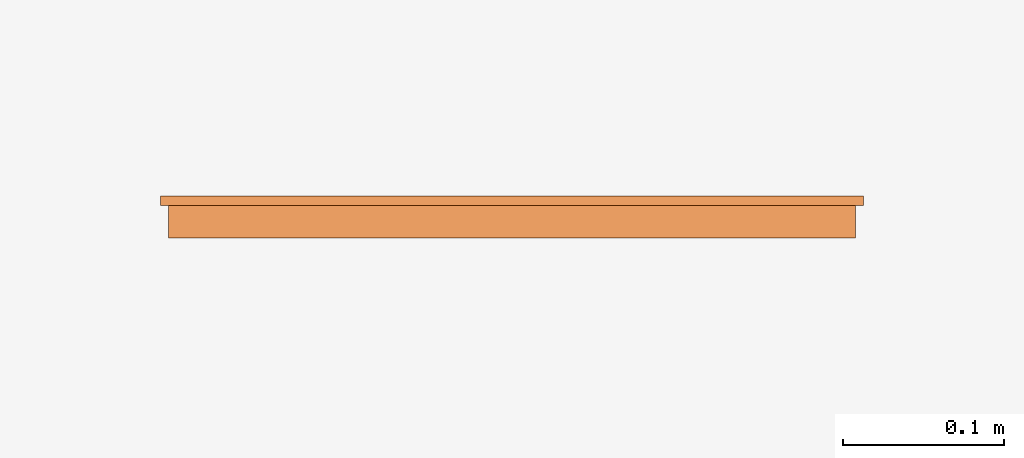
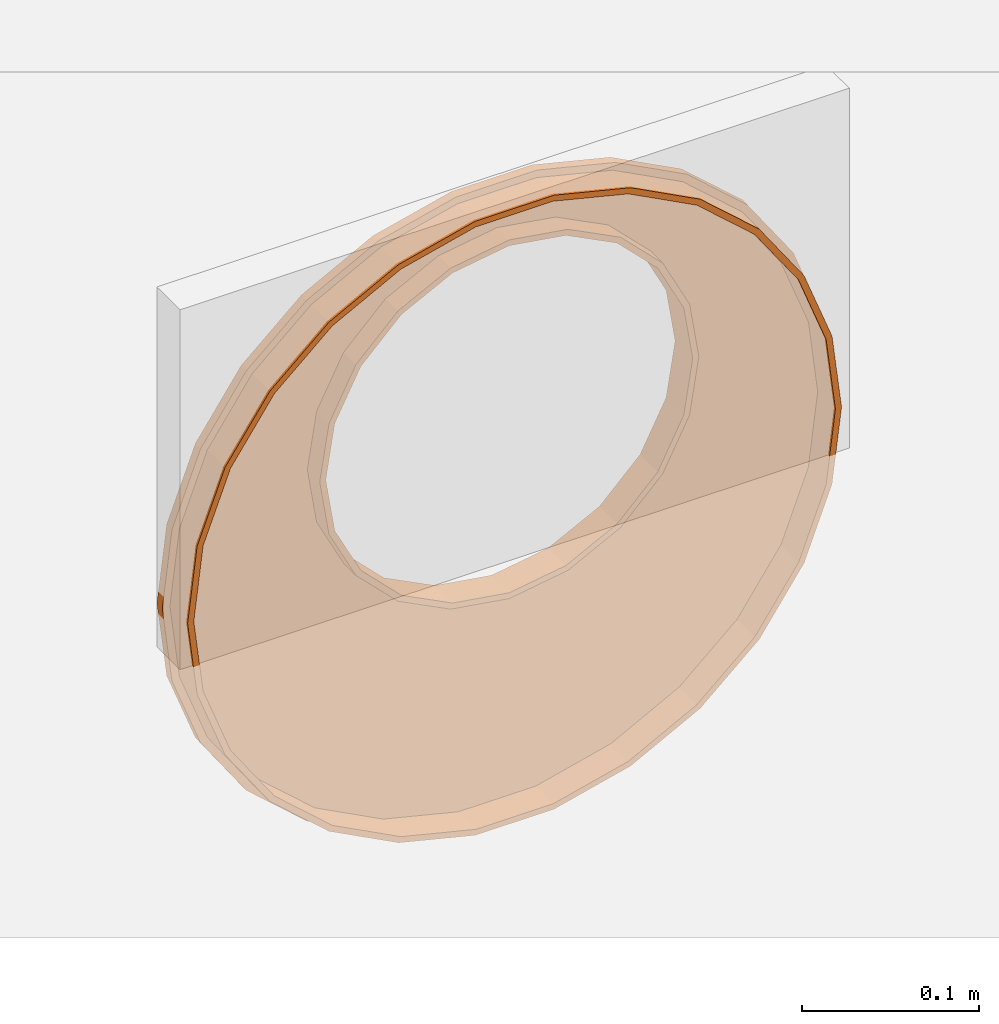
# One storey, part 2 of 2: 1 proxy.
"""IFC2X3 building model written with IfcOpenShell, lengths in millimetres."""

from ifc_helpers import new_model, entity, si_unit, converted_unit, direction, frame, origin, place, context, subcontext, project, spatial, faceted_brep, source, transform, mapped, element, save


model = new_model("IFC2X3")

# Units and contexts
model_context = context("Model", 3, precision=1e-06, world=origin(), true_north=direction((2.0, 6.12303176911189e-17, 1.0)))
context_of_model = context(None, 3, precision=1e-06, world=origin(), true_north=direction((2.0, 6.12303176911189e-17, 1.0)))
body_context = subcontext(model_context, "Body", "Model", "MODEL_VIEW")
ifc_project = project(units=[si_unit("LENGTHUNIT", "METRE", prefix="MILLI"), si_unit("AREAUNIT", "SQUARE_METRE", prefix="MILLI"), si_unit("VOLUMEUNIT", "CUBIC_METRE", prefix="MILLI"), converted_unit("PLANEANGLEUNIT", "DEGREE", entity("IfcRatioMeasure", 0.0174532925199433), si_unit("PLANEANGLEUNIT", "RADIAN"), dimensions=[0, 0, 0, 0, 0, 0, 0]), si_unit("TIMEUNIT", "SECOND")], contexts=[model_context, context_of_model])

# Site, building, storey
site_placement = place(None, origin())
site = spatial("IfcSite", under=ifc_project, at=site_placement, Name="Default", CompositionType="ELEMENT")
building_placement = place(site_placement, origin())
building = spatial("IfcBuilding", under=site, at=building_placement, CompositionType="ELEMENT")
storey_placement = place(building_placement, origin())
storey = spatial("IfcBuildingStorey", under=building, at=storey_placement, Name="Level 1", CompositionType="ELEMENT", Elevation=0.0)

# Proxy
shared_shape = source(origin(), body_context, "Body", "Brep", [
    faceted_brep([(431.260588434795, 21.5952722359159, 165.834991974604), (431.260588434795, 27.5952722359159, 165.834991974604), (433.720843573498, 27.595272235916, 186.097015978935), (433.720843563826, 21.5952722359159, 186.097015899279), (167.80484140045, 21.5952722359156, 7.88376905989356), (142.291406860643, 21.5952722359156, 14.1722658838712), (142.291406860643, 27.5952722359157, 14.1722658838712), (167.80484140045, 27.5952722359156, 7.88376905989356), (320.166262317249, 27.5952722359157, 26.3837949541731), (343.433387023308, 27.5952722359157, 38.5953240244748), (320.166262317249, 21.5952722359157, 26.3837949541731), (296.899137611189, 21.5952722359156, 14.1722658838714), (412.624685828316, 21.5952722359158, 116.69615528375), (412.624685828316, 27.5952722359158, 116.69615528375), (421.942637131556, 27.5952722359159, 141.265573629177), (421.942637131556, 21.5952722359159, 141.265573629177), (363.102001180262, 27.5952722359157, 56.0201956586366), (363.102001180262, 21.5952722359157, 56.0201956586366), (343.433387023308, 21.5952722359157, 38.5953240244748), (7.9299560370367, 21.5952722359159, 165.834991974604), (5.46970090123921, 21.5952722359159, 186.097015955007), (5.46970089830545, 27.595272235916, 186.097015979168), (7.9299560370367, 27.5952722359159, 165.834991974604), (271.385703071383, 21.5952722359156, 7.8837690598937), (245.872268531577, 21.5952722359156, 1.59527223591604), (245.872268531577, 27.5952722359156, 1.59527223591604), (271.385703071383, 27.5952722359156, 7.8837690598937), (437.595272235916, 24.595272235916, 218.005806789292), (437.595272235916, 21.595272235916, 218.005806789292), (397.697650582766, 27.5952722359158, 95.0706112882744), (397.697650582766, 21.5952722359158, 95.0706112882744), (382.770615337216, 21.5952722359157, 73.4450672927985), (382.770615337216, 27.5952722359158, 73.4450672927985), (296.899137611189, 27.5952722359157, 14.1722658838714), (1.595272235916, 24.595272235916, 218.005806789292), (1.595272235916, 27.595272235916, 218.005806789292), (193.318275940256, 21.5952722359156, 1.59527223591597), (193.318275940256, 27.5952722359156, 1.59527223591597), (56.4199291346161, 21.5952722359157, 73.4450672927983), (41.4928938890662, 21.5952722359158, 95.0706112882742), (41.4928938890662, 27.5952722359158, 95.0706112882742), (56.4199291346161, 27.5952722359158, 73.4450672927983), (437.595272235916, 27.595272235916, 218.005806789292), (1.595272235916, 21.595272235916, 218.005806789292), (219.595272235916, 21.5952722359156, 1.59527223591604), (219.595272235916, 27.5952722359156, 1.59527223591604), (119.024282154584, 27.5952722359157, 26.3837949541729), (119.024282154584, 21.5952722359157, 26.3837949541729), (17.2479073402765, 27.5952722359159, 141.265573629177), (26.5658586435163, 27.5952722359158, 116.69615528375), (26.5658586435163, 21.5952722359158, 116.69615528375), (17.2479073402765, 21.5952722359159, 141.265573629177), (76.0885432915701, 21.5952722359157, 56.0201956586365), (76.0885432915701, 27.5952722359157, 56.0201956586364), (95.7571574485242, 21.5952722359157, 38.5953240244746), (95.7571574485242, 27.5952722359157, 38.5953240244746), (432.595272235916, 6.595272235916, 218.005806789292), (432.595272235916, 1.595272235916, 218.005806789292), (426.405879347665, 1.5952722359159, 167.031570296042), (432.595272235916, 11.595272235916, 218.005806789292), (426.405879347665, 21.5952722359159, 167.031570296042), (408.19740570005, 1.59527223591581, 119.019771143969), (408.19740570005, 21.5952722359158, 119.019771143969), (379.028061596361, 1.59527223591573, 76.7606805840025), (379.028061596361, 21.5952722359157, 76.7606805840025), (340.593063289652, 21.5952722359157, 42.7102433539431), (340.593063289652, 1.59527223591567, 42.7102433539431), (295.126113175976, 1.59527223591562, 18.8473470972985), (295.126113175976, 21.5952722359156, 18.8473470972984), (245.2695851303, 1.5952722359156, 6.55881660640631), (245.2695851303, 21.5952722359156, 6.55881660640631), (432.595272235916, 16.595272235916, 218.005806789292), (432.595272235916, 21.595272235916, 218.005806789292), (193.920959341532, 21.5952722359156, 6.55881660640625), (193.920959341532, 1.5952722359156, 6.55881660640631), (144.064431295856, 1.59527223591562, 18.8473470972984), (98.5974811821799, 1.59527223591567, 42.7102433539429), (98.5974811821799, 21.5952722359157, 42.7102433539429), (144.064431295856, 21.5952722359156, 18.8473470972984), (60.1624828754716, 1.59527223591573, 76.7606805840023), (60.1624828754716, 21.5952722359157, 76.7606805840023), (12.784665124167, 1.5952722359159, 167.031570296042), (6.59527223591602, 1.595272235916, 218.005806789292), (6.59527223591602, 6.595272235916, 218.005806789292), (6.59527223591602, 11.595272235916, 218.005806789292), (30.9931387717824, 1.59527223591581, 119.019771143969), (30.9931387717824, 21.5952722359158, 119.019771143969), (12.784665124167, 21.5952722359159, 167.031570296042), (6.59527223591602, 16.595272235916, 218.005806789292), (6.59527223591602, 21.595272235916, 218.005806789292), (422.522112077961, 1.59527223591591, 167.988832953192), (428.595272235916, 1.595272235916, 218.005806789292), (428.595272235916, 6.595272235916, 218.005806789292), (428.595272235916, 11.595272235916, 218.005806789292), (404.655581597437, 1.59527223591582, 120.878663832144), (422.522112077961, 21.5952722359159, 167.988832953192), (404.655581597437, 21.5952722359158, 120.878663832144), (376.034018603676, 1.59527223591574, 79.4131712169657), (376.034018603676, 21.5952722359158, 79.4131712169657), (293.707693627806, 1.59527223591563, 22.5874120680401), (338.320804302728, 1.59527223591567, 46.0021788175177), (338.320804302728, 21.5952722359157, 46.0021788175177), (293.707693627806, 21.5952722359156, 22.5874120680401), (244.787438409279, 21.5952722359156, 10.5296521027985), (244.787438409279, 1.59527223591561, 10.5296521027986), (428.595272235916, 16.595272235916, 218.005806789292), (428.595272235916, 21.595272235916, 218.005806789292), (194.403106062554, 21.5952722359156, 10.5296521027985), (194.403106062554, 1.59527223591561, 10.5296521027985), (100.869740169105, 21.5952722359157, 46.0021788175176), (100.869740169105, 1.59527223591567, 46.0021788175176), (145.482850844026, 1.59527223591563, 22.5874120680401), (145.482850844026, 21.5952722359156, 22.5874120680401), (63.156525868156, 21.5952722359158, 79.4131712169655), (63.156525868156, 1.59527223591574, 79.4131712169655), (10.595272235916, 6.595272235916, 218.005806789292), (10.595272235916, 1.595272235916, 218.005806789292), (16.6684323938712, 1.59527223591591, 167.988832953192), (10.595272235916, 11.595272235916, 218.005806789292), (34.5349628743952, 21.5952722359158, 120.878663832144), (34.5349628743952, 1.59527223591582, 120.878663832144), (16.6684323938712, 21.5952722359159, 167.988832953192), (10.595272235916, 16.595272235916, 218.005806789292), (10.595272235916, 21.595272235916, 218.005806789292), (343.095272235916, 11.0952722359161, 280.505806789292), (343.095272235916, 7.59527223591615, 280.505806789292), (337.050751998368, 7.59527223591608, 242.342207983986), (343.095272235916, 14.5952722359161, 280.505806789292), (292.186750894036, 21.5952722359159, 180.592207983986), (292.186750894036, 7.59527223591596, 180.592207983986), (257.758871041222, 7.59527223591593, 163.05032702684), (257.758871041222, 21.5952722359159, 163.05032702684), (319.508871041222, 7.59527223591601, 207.914328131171), (319.508871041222, 21.595272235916, 207.914328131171), (337.050751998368, 21.5952722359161, 242.342207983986), (219.595272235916, 7.59527223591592, 157.005806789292), (219.595272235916, 21.5952722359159, 157.005806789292), (343.095272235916, 18.0952722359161, 280.505806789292), (343.095272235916, 21.5952722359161, 280.505806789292), (181.43167343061, 21.5952722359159, 163.05032702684), (181.43167343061, 7.59527223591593, 163.05032702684), (147.003793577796, 7.59527223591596, 180.592207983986), (147.003793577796, 21.5952722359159, 180.592207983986), (119.68167343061, 7.59527223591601, 207.914328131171), (119.68167343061, 21.595272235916, 207.914328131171), (102.139792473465, 7.59527223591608, 242.342207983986), (96.095272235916, 7.59527223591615, 280.505806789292), (96.095272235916, 11.0952722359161, 280.505806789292), (96.095272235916, 14.5952722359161, 280.505806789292), (102.139792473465, 21.5952722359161, 242.342207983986), (96.095272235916, 18.0952722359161, 280.505806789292), (96.095272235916, 21.5952722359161, 280.505806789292), (333.246525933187, 7.59527223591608, 243.578275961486), (339.095272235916, 7.59527223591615, 280.505806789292), (339.095272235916, 12.5952722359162, 280.505806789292), (339.095272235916, 17.5952722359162, 280.505806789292), (256.522803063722, 7.59527223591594, 166.854553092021), (289.835609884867, 7.59527223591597, 183.828275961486), (289.835609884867, 27.595272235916, 183.828275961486), (256.522803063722, 27.5952722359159, 166.854553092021), (316.272803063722, 7.59527223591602, 210.265469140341), (316.272803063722, 27.595272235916, 210.265469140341), (333.246525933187, 27.5952722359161, 243.578275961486), (219.595272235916, 7.59527223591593, 161.005806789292), (219.595272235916, 27.5952722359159, 161.005806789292), (339.095272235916, 22.5952722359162, 280.505806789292), (339.095272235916, 27.5952722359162, 280.505806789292), (149.354934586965, 7.59527223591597, 183.828275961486), (182.66774140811, 7.59527223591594, 166.854553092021), (182.66774140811, 27.5952722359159, 166.854553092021), (149.354934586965, 27.595272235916, 183.828275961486), (122.91774140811, 7.59527223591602, 210.265469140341), (122.91774140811, 27.595272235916, 210.265469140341), (100.095272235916, 12.5952722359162, 280.505806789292), (100.095272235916, 7.59527223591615, 280.505806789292), (105.944018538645, 7.59527223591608, 243.578275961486), (100.095272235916, 17.5952722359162, 280.505806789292), (105.944018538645, 27.5952722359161, 243.578275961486), (100.095272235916, 27.5952722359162, 280.505806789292), (100.095272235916, 22.5952722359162, 280.505806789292), (105.944018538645, 7.59527223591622, 317.433337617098), (122.91774140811, 27.5952722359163, 350.746144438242), (122.91774140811, 7.59527223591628, 350.746144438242), (105.944018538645, 27.5952722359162, 317.433337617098), (149.354934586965, 27.5952722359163, 377.183337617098), (149.354934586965, 7.59527223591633, 377.183337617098), (182.66774140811, 27.5952722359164, 394.157060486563), (182.66774140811, 7.59527223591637, 394.157060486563), (219.595272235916, 27.5952722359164, 400.005806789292), (219.595272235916, 7.59527223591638, 400.005806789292), (256.522803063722, 27.5952722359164, 394.157060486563), (256.522803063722, 7.59527223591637, 394.157060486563), (289.835609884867, 27.5952722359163, 377.183337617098), (289.835609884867, 7.59527223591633, 377.183337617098), (333.246525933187, 7.59527223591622, 317.433337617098), (316.272803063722, 7.59527223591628, 350.746144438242), (316.272803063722, 27.5952722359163, 350.746144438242), (333.246525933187, 27.5952722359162, 317.433337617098), (102.139792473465, 7.59527223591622, 318.669405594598), (119.68167343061, 7.59527223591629, 353.097285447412), (119.68167343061, 21.5952722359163, 353.097285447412), (102.139792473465, 21.5952722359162, 318.669405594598), (147.003793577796, 7.59527223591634, 380.419405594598), (147.003793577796, 21.5952722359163, 380.419405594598), (181.43167343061, 7.59527223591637, 397.961286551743), (181.43167343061, 21.5952722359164, 397.961286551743), (219.595272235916, 21.5952722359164, 404.005806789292), (219.595272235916, 7.59527223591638, 404.005806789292), (257.758871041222, 7.59527223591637, 397.961286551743), (257.758871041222, 21.5952722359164, 397.961286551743), (292.186750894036, 7.59527223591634, 380.419405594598), (292.186750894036, 21.5952722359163, 380.419405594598), (337.050751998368, 7.59527223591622, 318.669405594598), (319.508871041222, 7.59527223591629, 353.097285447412), (319.508871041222, 21.5952722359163, 353.097285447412), (337.050751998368, 21.5952722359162, 318.669405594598), (16.6684323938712, 1.59527223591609, 268.022780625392), (34.5349628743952, 1.59527223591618, 315.13294974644), (16.6684323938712, 21.5952722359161, 268.022780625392), (34.5349628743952, 21.5952722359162, 315.13294974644), (100.869740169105, 1.59527223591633, 390.009434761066), (63.156525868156, 1.59527223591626, 356.598442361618), (63.156525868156, 21.5952722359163, 356.598442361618), (100.869740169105, 21.5952722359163, 390.009434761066), (145.482850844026, 1.59527223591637, 413.424201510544), (145.482850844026, 21.5952722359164, 413.424201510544), (194.403106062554, 1.59527223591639, 425.481961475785), (194.403106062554, 21.5952722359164, 425.481961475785), (244.787438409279, 1.59527223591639, 425.481961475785), (244.787438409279, 21.5952722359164, 425.481961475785), (376.034018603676, 21.5952722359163, 356.598442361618), (376.034018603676, 1.59527223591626, 356.598442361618), (338.320804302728, 1.59527223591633, 390.009434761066), (338.320804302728, 21.5952722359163, 390.009434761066), (293.707693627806, 1.59527223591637, 413.424201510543), (293.707693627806, 21.5952722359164, 413.424201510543), (422.522112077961, 1.59527223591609, 268.022780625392), (404.655581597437, 21.5952722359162, 315.132949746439), (404.655581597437, 1.59527223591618, 315.13294974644), (422.522112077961, 21.5952722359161, 268.022780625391), (12.7846651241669, 1.5952722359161, 268.980043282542), (12.7846651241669, 21.5952722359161, 268.980043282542), (30.9931387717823, 1.59527223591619, 316.991842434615), (30.9931387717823, 21.5952722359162, 316.991842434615), (60.1624828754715, 21.5952722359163, 359.250932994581), (60.1624828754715, 1.59527223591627, 359.250932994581), (98.5974811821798, 1.59527223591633, 393.301370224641), (98.5974811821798, 21.5952722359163, 393.301370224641), (144.064431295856, 1.59527223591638, 417.164266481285), (144.064431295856, 21.5952722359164, 417.164266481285), (193.920959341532, 1.5952722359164, 429.452796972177), (193.920959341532, 21.5952722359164, 429.452796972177), (245.2695851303, 1.5952722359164, 429.452796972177), (245.2695851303, 21.5952722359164, 429.452796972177), (340.593063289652, 1.59527223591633, 393.301370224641), (379.02806159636, 1.59527223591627, 359.250932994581), (379.02806159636, 21.5952722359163, 359.250932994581), (340.593063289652, 21.5952722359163, 393.301370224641), (295.126113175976, 1.59527223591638, 417.164266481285), (295.126113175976, 21.5952722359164, 417.164266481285), (426.405879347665, 1.5952722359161, 268.980043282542), (408.19740570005, 1.59527223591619, 316.991842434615), (408.19740570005, 21.5952722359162, 316.991842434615), (426.405879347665, 21.5952722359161, 268.980043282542), (7.92995603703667, 21.5952722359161, 270.176621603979), (7.92995603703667, 27.5952722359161, 270.176621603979), (5.46970089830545, 27.5952722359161, 249.914597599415), (5.46970090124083, 21.5952722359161, 249.91459762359), (363.102001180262, 21.5952722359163, 379.991417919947), (382.770615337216, 21.5952722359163, 362.566546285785), (382.770615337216, 27.5952722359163, 362.566546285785), (363.102001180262, 27.5952722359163, 379.991417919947), (421.942637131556, 21.5952722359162, 294.746039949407), (431.260588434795, 21.5952722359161, 270.17662160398), (431.260588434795, 27.5952722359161, 270.17662160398), (421.942637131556, 27.5952722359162, 294.746039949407), (26.5658586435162, 21.5952722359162, 319.315458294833), (26.5658586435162, 27.5952722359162, 319.315458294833), (17.2479073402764, 27.5952722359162, 294.746039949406), (17.2479073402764, 21.5952722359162, 294.746039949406), (76.08854329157, 21.5952722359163, 379.991417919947), (95.757157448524, 21.5952722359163, 397.416289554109), (76.08854329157, 27.5952722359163, 379.991417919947), (56.4199291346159, 27.5952722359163, 362.566546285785), (219.595272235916, 27.5952722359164, 434.416341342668), (193.318275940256, 27.5952722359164, 434.416341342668), (219.595272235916, 21.5952722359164, 434.416341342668), (245.872268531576, 21.5952722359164, 434.416341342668), (119.024282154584, 27.5952722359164, 409.627818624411), (119.024282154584, 21.5952722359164, 409.627818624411), (142.291406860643, 21.5952722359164, 421.839347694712), (142.291406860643, 27.5952722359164, 421.839347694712), (41.4928938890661, 27.5952722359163, 340.941002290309), (41.4928938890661, 21.5952722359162, 340.941002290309), (56.4199291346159, 21.5952722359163, 362.566546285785), (271.385703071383, 21.5952722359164, 428.12784451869), (296.899137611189, 21.5952722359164, 421.839347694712), (296.899137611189, 27.5952722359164, 421.839347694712), (271.385703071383, 27.5952722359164, 428.12784451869), (167.804841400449, 27.5952722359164, 428.12784451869), (167.804841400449, 21.5952722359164, 428.12784451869), (193.318275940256, 21.5952722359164, 434.416341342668), (433.720843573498, 27.5952722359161, 249.914597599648), (433.720843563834, 21.5952722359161, 249.91459767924), (397.697650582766, 21.5952722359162, 340.941002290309), (412.624685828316, 21.5952722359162, 319.315458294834), (412.624685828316, 27.5952722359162, 319.315458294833), (397.697650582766, 27.5952722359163, 340.941002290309), (95.757157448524, 27.5952722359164, 397.416289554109), (245.872268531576, 27.5952722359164, 434.416341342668), (320.166262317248, 27.5952722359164, 409.627818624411), (320.166262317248, 21.5952722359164, 409.627818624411), (343.433387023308, 21.5952722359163, 397.416289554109), (343.433387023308, 27.5952722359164, 397.416289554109)], [[[0, 1, 2, 3]], [[4, 5, 6, 7]], [[8, 9, 10, 11]], [[12, 13, 14, 15]], [[16, 17, 18, 9]], [[19, 20, 21, 22]], [[23, 24, 25, 26]], [[27, 28, 3, 2]], [[29, 30, 31, 32]], [[23, 26, 33, 11]], [[34, 35, 21, 20]], [[15, 14, 1, 0]], [[36, 4, 7, 37]], [[11, 33, 8]], [[38, 39, 40, 41]], [[2, 42, 27]], [[9, 18, 10]], [[13, 12, 30, 29]], [[20, 43, 34]], [[32, 31, 17, 16]], [[44, 36, 37, 45]], [[46, 6, 5, 47]], [[48, 49, 50, 51]], [[52, 38, 41, 53]], [[47, 54, 55, 46]], [[53, 55, 54, 52]], [[51, 19, 22, 48]], [[45, 25, 24, 44]], [[49, 40, 39, 50]], [[56, 57, 58, 59]], [[60, 58, 61, 62]], [[62, 61, 63, 64]], [[65, 66, 67, 68]], [[64, 63, 66, 65]], [[67, 69, 70, 68]], [[71, 59, 60, 72]], [[58, 60, 59]], [[73, 70, 69, 74]], [[75, 76, 77, 78]], [[74, 75, 78, 73]], [[76, 79, 80, 77]], [[81, 82, 83, 84]], [[79, 85, 86, 80]], [[85, 81, 87, 86]], [[87, 84, 88, 89]], [[84, 87, 81]], [[90, 91, 92, 93]], [[94, 90, 95, 96]], [[97, 94, 96, 98]], [[99, 100, 101, 102]], [[100, 97, 98, 101]], [[103, 104, 99, 102]], [[95, 93, 105, 106]], [[93, 95, 90]], [[104, 103, 107, 108]], [[109, 110, 111, 112]], [[112, 111, 108, 107]], [[113, 114, 110, 109]], [[115, 116, 117, 118]], [[119, 120, 114, 113]], [[121, 117, 120, 119]], [[122, 118, 121, 123]], [[117, 121, 118]], [[124, 125, 126, 127]], [[128, 129, 130, 131]], [[132, 129, 128, 133]], [[126, 132, 133, 134]], [[131, 130, 135, 136]], [[137, 127, 134, 138]], [[134, 127, 126]], [[139, 140, 141, 142]], [[142, 141, 143, 144]], [[145, 146, 147, 148]], [[144, 143, 145, 149]], [[149, 145, 148, 150]], [[140, 139, 136, 135]], [[151, 149, 150]], [[152, 153, 154, 155]], [[156, 157, 158, 159]], [[158, 157, 160, 161]], [[160, 152, 162, 161]], [[163, 156, 159, 164]], [[162, 155, 165, 166]], [[152, 155, 162]], [[167, 168, 169, 170]], [[171, 167, 170, 172]], [[173, 174, 175, 176]], [[175, 171, 172, 177]], [[177, 176, 175]], [[164, 169, 168, 163]], [[177, 178, 179, 176]], [[180, 174, 173, 176]], [[181, 182, 180, 183]], [[184, 185, 182, 181]], [[183, 180, 176, 179]], [[186, 187, 185, 184]], [[183, 179, 178]], [[187, 186, 188, 189]], [[190, 191, 189, 188]], [[192, 193, 191, 190]], [[154, 153, 194, 155]], [[195, 193, 192, 196]], [[197, 194, 195, 196]], [[165, 155, 197, 166]], [[155, 194, 197]], [[147, 146, 198, 148]], [[198, 199, 200, 201]], [[199, 202, 203, 200]], [[198, 201, 148]], [[202, 204, 205, 203]], [[201, 151, 150, 148]], [[206, 205, 204, 207]], [[207, 208, 209, 206]], [[208, 210, 211, 209]], [[212, 125, 124, 127]], [[211, 210, 213, 214]], [[214, 213, 212, 215]], [[215, 127, 137, 138]], [[215, 212, 127]], [[216, 116, 115, 118]], [[217, 216, 218, 219]], [[220, 221, 222, 223]], [[224, 220, 223, 225]], [[221, 217, 219, 222]], [[226, 224, 225, 227]], [[218, 118, 122, 123]], [[118, 218, 216]], [[228, 226, 227, 229]], [[230, 231, 232, 233]], [[234, 228, 229, 235]], [[233, 232, 234, 235]], [[92, 91, 236, 93]], [[237, 238, 231, 230]], [[239, 236, 238, 237]], [[105, 93, 239, 106]], [[236, 239, 93]], [[83, 82, 240, 84]], [[241, 240, 242, 243]], [[244, 245, 246, 247]], [[247, 246, 248, 249]], [[243, 242, 245, 244]], [[249, 248, 250, 251]], [[88, 84, 241, 89]], [[240, 241, 84]], [[251, 250, 252, 253]], [[254, 255, 256, 257]], [[253, 252, 258, 259]], [[258, 254, 257, 259]], [[260, 57, 56, 59]], [[255, 261, 262, 256]], [[261, 260, 263, 262]], [[263, 59, 71, 72]], [[59, 263, 260]], [[264, 265, 266, 267]], [[268, 269, 270, 271]], [[272, 273, 274, 275]], [[276, 277, 278, 279]], [[280, 281, 282, 283]], [[284, 285, 286, 287]], [[288, 289, 290, 291]], [[292, 277, 293, 294]], [[295, 296, 297, 298]], [[299, 300, 301, 285]], [[27, 42, 302, 303]], [[279, 278, 265, 264]], [[304, 305, 306, 307]], [[305, 272, 275, 306]], [[269, 304, 307, 270]], [[281, 308, 282]], [[283, 294, 280]], [[287, 309, 284]], [[276, 293, 277]], [[294, 283, 292]], [[308, 281, 289, 288]], [[291, 290, 300, 299]], [[309, 287, 295, 298]], [[34, 43, 267, 266]], [[273, 303, 302, 274]], [[310, 297, 296, 311]], [[311, 312, 313, 310]], [[271, 313, 312, 268]], [[266, 35, 34]], [[303, 28, 27]], [[301, 286, 285]], [[13, 29, 158, 161]], [[161, 1, 14, 13]], [[42, 2, 161, 162]], [[32, 16, 158, 29]], [[159, 33, 26, 25]], [[25, 45, 164, 159]], [[159, 158, 9, 8]], [[306, 275, 166, 197]], [[162, 166, 274, 302]], [[270, 307, 197, 196]], [[313, 271, 196, 192]], [[297, 310, 192, 190]], [[309, 298, 190, 188]], [[37, 7, 169, 164]], [[170, 169, 55, 53]], [[172, 170, 49, 48]], [[6, 46, 169, 7]], [[170, 41, 40, 49]], [[177, 172, 35, 266]], [[22, 21, 172, 48]], [[308, 288, 184, 181]], [[186, 184, 291, 299]], [[188, 186, 285, 284]], [[183, 178, 277, 292]], [[178, 177, 265, 278]], [[283, 282, 181, 183]], [[142, 119, 113, 109]], [[144, 123, 121, 119]], [[139, 112, 107, 136]], [[136, 107, 103]], [[144, 119, 142]], [[139, 142, 109, 112]], [[123, 144, 149, 218]], [[151, 219, 218, 149]], [[219, 151, 201, 222]], [[200, 223, 222, 201]], [[203, 225, 223, 200]], [[205, 227, 225, 203]], [[227, 205, 206, 229]], [[103, 102, 131, 136]], [[101, 128, 131, 102]], [[96, 133, 128, 98]], [[133, 96, 95, 106]], [[134, 133, 106, 239]], [[98, 128, 101]], [[211, 233, 235, 209]], [[229, 206, 209, 235]], [[233, 211, 214, 230]], [[239, 237, 138, 134]], [[215, 138, 237, 230]], [[230, 214, 215]], [[86, 50, 39, 38]], [[50, 86, 87]], [[89, 19, 87]], [[89, 43, 20, 19]], [[87, 19, 51, 50]], [[86, 38, 80]], [[5, 4, 73, 78]], [[70, 73, 36, 44]], [[80, 54, 77]], [[80, 38, 52, 54]], [[78, 77, 54, 47]], [[264, 267, 241, 243]], [[244, 294, 293, 276]], [[243, 276, 279, 264]], [[243, 244, 276]], [[43, 89, 241, 267]], [[247, 281, 280, 294]], [[281, 247, 249]], [[247, 294, 244]], [[290, 249, 251]], [[249, 290, 289, 281]], [[301, 251, 253]], [[251, 301, 300, 290]], [[68, 70, 24, 23]], [[65, 68, 11, 10]], [[64, 65, 18, 17]], [[62, 64, 31, 30]], [[60, 62, 12, 15]], [[72, 60, 0, 3]], [[296, 259, 257, 311]], [[269, 268, 257, 256]], [[312, 311, 257, 268]], [[259, 287, 253]], [[259, 296, 295, 287]], [[253, 287, 286, 301]], [[28, 303, 263, 72]], [[262, 263, 273, 272]], [[305, 304, 256, 262]], [[120, 85, 79, 114]], [[85, 120, 117, 81]], [[81, 117, 116, 82]], [[75, 74, 108, 111]], [[104, 108, 74, 69]], [[76, 110, 114, 79]], [[111, 110, 76, 75]], [[216, 240, 82, 116]], [[240, 216, 217, 242]], [[221, 245, 242, 217]], [[220, 246, 245, 221]], [[246, 220, 224, 248]], [[248, 224, 226, 250]], [[250, 226, 228, 252]], [[99, 104, 69, 67]], [[100, 99, 67, 66]], [[97, 100, 66, 63]], [[94, 97, 63, 61]], [[90, 94, 61, 58]], [[91, 90, 58, 57]], [[258, 234, 232, 254]], [[255, 254, 232, 231]], [[252, 228, 234, 258]], [[57, 260, 236, 91]], [[238, 236, 260, 261]], [[261, 255, 231, 238]], [[143, 171, 175, 145]], [[171, 143, 141, 167]], [[145, 175, 174, 146]], [[163, 168, 140, 135]], [[168, 167, 141, 140]], [[180, 198, 146, 174]], [[182, 199, 198, 180]], [[199, 182, 185, 202]], [[202, 185, 187, 204]], [[204, 187, 189, 207]], [[135, 130, 156, 163]], [[157, 156, 130, 129]], [[160, 157, 129, 132]], [[152, 160, 132, 126]], [[153, 152, 126, 125]], [[193, 210, 208, 191]], [[213, 210, 193, 195]], [[191, 208, 207, 189]], [[125, 212, 194, 153]], [[212, 213, 195, 194]], [[161, 2, 1]], [[158, 16, 9]], [[164, 45, 37]], [[159, 8, 33]], [[166, 275, 274]], [[197, 307, 306]], [[196, 271, 270]], [[192, 310, 313]], [[190, 298, 297]], [[162, 302, 42]], [[169, 46, 55]], [[172, 21, 35]], [[177, 266, 265]], [[170, 53, 41]], [[184, 288, 291]], [[186, 299, 285]], [[188, 284, 309]], [[178, 278, 277]], [[181, 282, 308]], [[183, 292, 283]], [[73, 4, 36]], [[78, 47, 5]], [[70, 44, 24]], [[68, 23, 11]], [[65, 10, 18]], [[64, 17, 31]], [[62, 30, 12]], [[72, 3, 28]], [[60, 15, 0]], [[263, 303, 273]], [[256, 304, 269]], [[262, 272, 305]]]),
])
proxy_placement = place(storey_placement, frame((-14273.4347726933, 2399.27628914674, -588.005806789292)))
element("IfcBuildingElementProxy", 1, at=proxy_placement, inside=storey, Name="32880 - 225-350 Step Connector:32880 - 225-350 Step Connector:32880 - 225-350 Step Connector", ObjectType="32880 - 225-350 Step Connector", CompositionType="ELEMENT", context=body_context, shape_type="MappedRepresentation", body=[
    mapped(shared_shape, transform((0.0, 0.0, 0.0), scale=1.0)),
])

save(model, "model.ifc")
